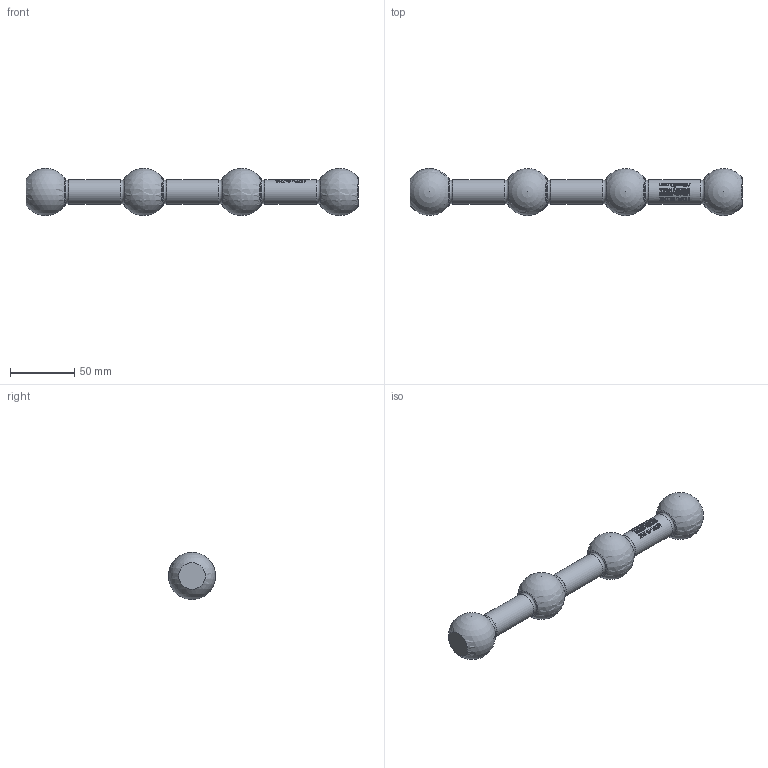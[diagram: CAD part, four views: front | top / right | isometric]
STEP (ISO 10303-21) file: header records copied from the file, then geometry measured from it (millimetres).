
FILE_DESCRIPTION(/* description */ (''),/* implementation_level */ '2;1');
FILE_NAME(/* name */ 'C:\Users\owner\Desktop\HDPL-HYPERLINKS_3D_stp\HDPL-HLINK9IN.stp',/* time_stamp */ '2017-10-02T13:30:45-04:00',/* author */ ('owner'),/* organization */ (''),/* preprocessor_version */ 'ST-DEVELOPER v16.5',/* originating_system */ 'Autodesk Inventor 2017',/* authorisation */ '');
FILE_SCHEMA (('CONFIG_CONTROL_DESIGN'));
Length unit declared in the file: inch
Products named in the file (4): PL-HDHLINK9IN; 60062; 60062_1; 60063
Assembly tree (4 placements, depth 2):
  PL-HDHLINK9IN
    60062
    60062_1  x2
    60063
Bounding box: 257.87 x 36.61 x 36.65 mm (x, y, z)
Volume: 132527.9 mm3; surface area: 31851.8 mm2
Topology: 4 solids, 4 shells, 825 faces, 2187 edges, 1441 vertices
Faces by surface type: bspline 345, plane 339, cylinder 93, torus 33, cone 11, sphere 4
Full cylindrical faces by diameter (mm): 13.017 x3, 13.08 x12, 13.109 x4, 19.083 x3, 21.92 x3
Entity records: 33242 total; most frequent: CARTESIAN_POINT 15391, ORIENTED_EDGE 4146, DIRECTION 2710, EDGE_CURVE 2073, VERTEX_POINT 1401, LINE 1008, VECTOR 1008, EDGE_LOOP 918
